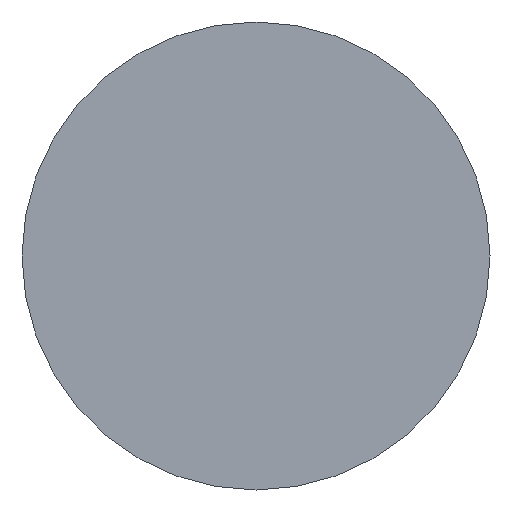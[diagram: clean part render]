
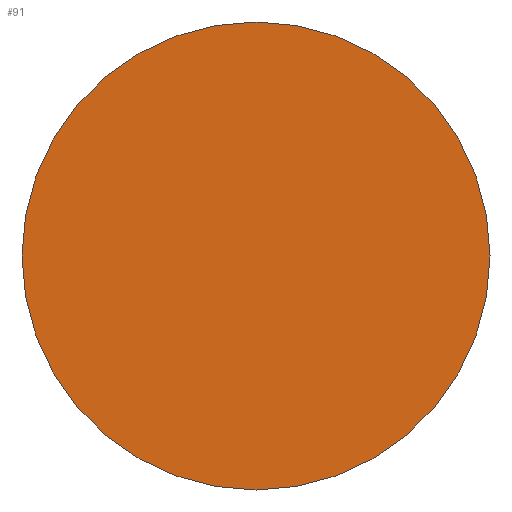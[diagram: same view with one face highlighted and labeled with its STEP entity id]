
A CAD part, left-side view. The second image highlights one B-rep face of the part: STEP entity #91.
In plain terms, the highlighted planar face has unit normal (-1, 0, 0).
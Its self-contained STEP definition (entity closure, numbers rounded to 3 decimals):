
#22 = CARTESIAN_POINT ( 'NONE',  ( 0., 0., 0. ) ) ;
#39 = AXIS2_PLACEMENT_3D ( 'NONE', #22, #138, #270 ) ;
#46 = DIRECTION ( 'NONE',  ( 0., 1., 0. ) ) ;
#49 = EDGE_LOOP ( 'NONE', ( #176, #116 ) ) ;
#53 = EDGE_CURVE ( 'NONE', #235, #206, #249, .T. ) ;
#59 = DIRECTION ( 'NONE',  ( -1., 0., 0. ) ) ;
#67 = CARTESIAN_POINT ( 'NONE',  ( 0., 0., 0. ) ) ;
#76 = PLANE ( 'NONE',  #213 ) ;
#78 = CARTESIAN_POINT ( 'NONE',  ( 0., -7., 0. ) ) ;
#89 = CIRCLE ( 'NONE', #207, 7. ) ;
#91 = ADVANCED_FACE ( 'NONE', ( #184 ), #76, .T. ) ;
#103 = EDGE_CURVE ( 'NONE', #206, #235, #89, .T. ) ;
#113 = CARTESIAN_POINT ( 'NONE',  ( 0., 0., 0. ) ) ;
#116 = ORIENTED_EDGE ( 'NONE', *, *, #103, .F. ) ;
#138 = DIRECTION ( 'NONE',  ( 1., 0., 0. ) ) ;
#176 = ORIENTED_EDGE ( 'NONE', *, *, #53, .F. ) ;
#183 = DIRECTION ( 'NONE',  ( 1., 0., 0. ) ) ;
#184 = FACE_OUTER_BOUND ( 'NONE', #49, .T. ) ;
#199 = CARTESIAN_POINT ( 'NONE',  ( 0., 7., 0. ) ) ;
#206 = VERTEX_POINT ( 'NONE', #78 ) ;
#207 = AXIS2_PLACEMENT_3D ( 'NONE', #113, #183, #46 ) ;
#213 = AXIS2_PLACEMENT_3D ( 'NONE', #67, #59, #266 ) ;
#235 = VERTEX_POINT ( 'NONE', #199 ) ;
#249 = CIRCLE ( 'NONE', #39, 7. ) ;
#266 = DIRECTION ( 'NONE',  ( 0., -1., 0. ) ) ;
#270 = DIRECTION ( 'NONE',  ( 0., 1., 0. ) ) ;
